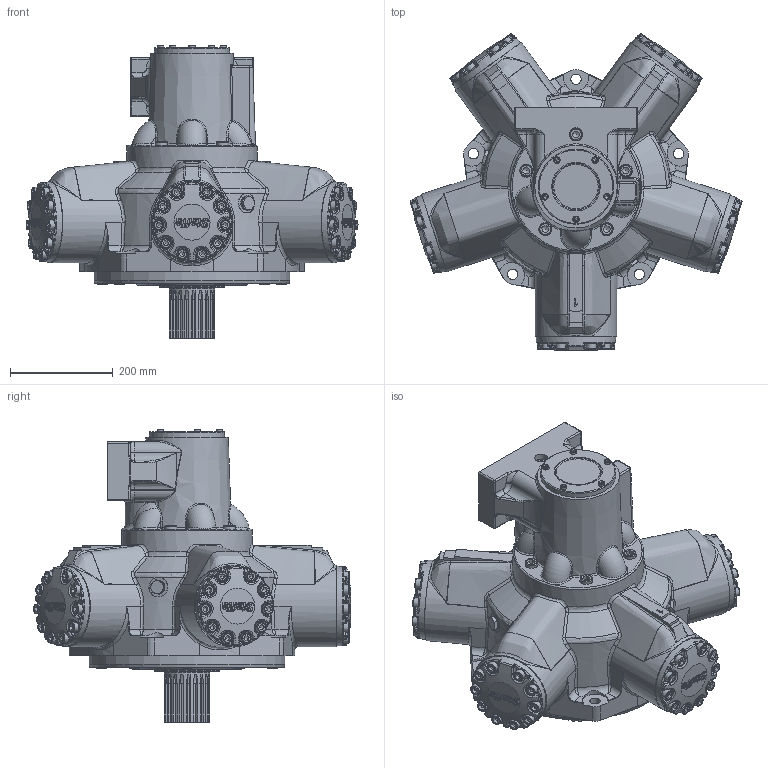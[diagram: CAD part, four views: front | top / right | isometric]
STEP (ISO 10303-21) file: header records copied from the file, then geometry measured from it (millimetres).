
FILE_DESCRIPTION(/* description */ (''),/* implementation_level */ '2;1');
FILE_NAME(/* name */ 'HMB150_S3_SM4_70.stp',/* time_stamp */ '2024-07-09T15:50:15+01:00',/* author */ ('ccallanga'),/* organization */ (''),/* preprocessor_version */ 'ST-DEVELOPER v20',/* originating_system */ 'Autodesk Inventor 2024',/* authorisation */ '');
FILE_SCHEMA (('AUTOMOTIVE_DESIGN { 1 0 10303 214 3 1 1 }'));
Products named in the file (1): HMB150-200 Web Assembly_Simplify_1
Bounding box: 645.1 x 616.02 x 570.7 mm (x, y, z)
Volume: 47820585.1 mm3; surface area: 1264921.1 mm2
Topology: 1 solids, 1 shells, 4542 faces, 11108 edges, 6595 vertices
Faces by surface type: bspline 1707, plane 1181, cylinder 947, torus 423, cone 156, sphere 128
Full cylindrical faces by diameter (mm): 2.2 x4, 11.328 x2, 11.913 x5, 12.7 x5, 13.835 x8, 16.51 x1, 17.323 x1, 19.05 x60, 20 x5, 20.637 x60, 23.825 x5, 25.4 x5, 26.92 x2, 38 x2, 38.1 x3, 87.953 x1, 88.837 x1, 92.964 x1, 127 x1, 146.05 x1, 254 x1, 380.91 x1
Entity records: 231425 total; most frequent: CARTESIAN_POINT 133445, ORIENTED_EDGE 21786, DIRECTION 15583, EDGE_CURVE 10893, VERTEX_POINT 6595, AXIS2_PLACEMENT_3D 6139, EDGE_LOOP 4794, STYLED_ITEM 4543
